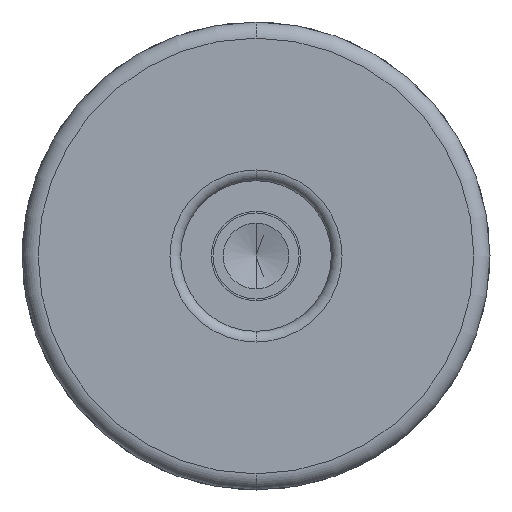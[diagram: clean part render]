
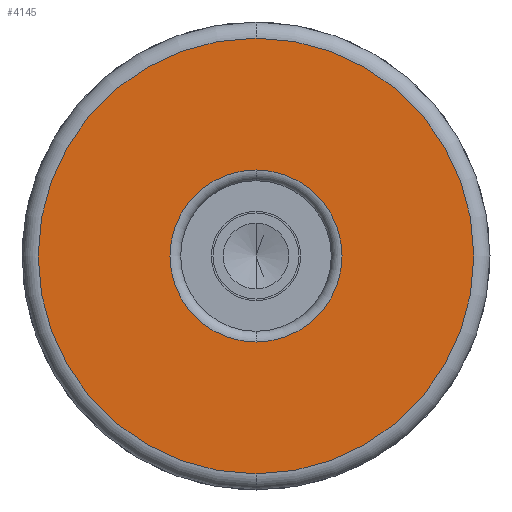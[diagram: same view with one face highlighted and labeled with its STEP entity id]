
A CAD part, front view. The second image highlights one B-rep face of the part: STEP entity #4145.
In plain terms, the highlighted planar face has unit normal (0, -1, 0).
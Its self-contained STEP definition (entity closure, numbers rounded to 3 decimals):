
#156 = EDGE_LOOP ( 'NONE', ( #4884, #4685 ) ) ;
#269 = CARTESIAN_POINT ( 'NONE',  ( 0., 0., 0. ) ) ;
#339 = AXIS2_PLACEMENT_3D ( 'NONE', #3984, #2891, #2018 ) ;
#465 = EDGE_CURVE ( 'NONE', #4158, #5172, #5816, .T. ) ;
#657 = FACE_BOUND ( 'NONE', #156, .T. ) ;
#678 = PLANE ( 'NONE',  #732 ) ;
#732 = AXIS2_PLACEMENT_3D ( 'NONE', #3659, #3357, #4864 ) ;
#772 = EDGE_CURVE ( 'NONE', #5172, #4158, #6204, .T. ) ;
#903 = EDGE_LOOP ( 'NONE', ( #2198, #3210 ) ) ;
#1357 = EDGE_CURVE ( 'NONE', #2450, #5265, #4343, .T. ) ;
#1986 = EDGE_CURVE ( 'NONE', #5265, #2450, #5834, .T. ) ;
#2018 = DIRECTION ( 'NONE',  ( 0., 0., -1. ) ) ;
#2156 = CARTESIAN_POINT ( 'NONE',  ( 0., 0., 20.25 ) ) ;
#2198 = ORIENTED_EDGE ( 'NONE', *, *, #1357, .T. ) ;
#2450 = VERTEX_POINT ( 'NONE', #5664 ) ;
#2460 = DIRECTION ( 'NONE',  ( 0., 0., -1. ) ) ;
#2777 = DIRECTION ( 'NONE',  ( 0., -1., 0. ) ) ;
#2891 = DIRECTION ( 'NONE',  ( 0., -1., 0. ) ) ;
#3210 = ORIENTED_EDGE ( 'NONE', *, *, #1986, .T. ) ;
#3357 = DIRECTION ( 'NONE',  ( 0., -1., 0. ) ) ;
#3532 = CARTESIAN_POINT ( 'NONE',  ( 0., 0., 0. ) ) ;
#3659 = CARTESIAN_POINT ( 'NONE',  ( -7., 0., 0. ) ) ;
#3874 = AXIS2_PLACEMENT_3D ( 'NONE', #269, #5820, #4782 ) ;
#3984 = CARTESIAN_POINT ( 'NONE',  ( 0., 0., 0. ) ) ;
#4145 = ADVANCED_FACE ( 'NONE', ( #5434, #657 ), #678, .T. ) ;
#4158 = VERTEX_POINT ( 'NONE', #4928 ) ;
#4343 = CIRCLE ( 'NONE', #6174, 20.25 ) ;
#4685 = ORIENTED_EDGE ( 'NONE', *, *, #465, .T. ) ;
#4782 = DIRECTION ( 'NONE',  ( 0., 0., -1. ) ) ;
#4864 = DIRECTION ( 'NONE',  ( 0., 0., -1. ) ) ;
#4884 = ORIENTED_EDGE ( 'NONE', *, *, #772, .T. ) ;
#4928 = CARTESIAN_POINT ( 'NONE',  ( 0., 0., 8. ) ) ;
#5172 = VERTEX_POINT ( 'NONE', #5544 ) ;
#5265 = VERTEX_POINT ( 'NONE', #2156 ) ;
#5434 = FACE_OUTER_BOUND ( 'NONE', #903, .T. ) ;
#5533 = DIRECTION ( 'NONE',  ( 0., 1., 0. ) ) ;
#5544 = CARTESIAN_POINT ( 'NONE',  ( 0., 0., -8. ) ) ;
#5664 = CARTESIAN_POINT ( 'NONE',  ( 0., 0., -20.25 ) ) ;
#5816 = CIRCLE ( 'NONE', #3874, 8. ) ;
#5820 = DIRECTION ( 'NONE',  ( 0., 1., 0. ) ) ;
#5834 = CIRCLE ( 'NONE', #339, 20.25 ) ;
#6102 = AXIS2_PLACEMENT_3D ( 'NONE', #3532, #5533, #2460 ) ;
#6174 = AXIS2_PLACEMENT_3D ( 'NONE', #6244, #2777, #6285 ) ;
#6204 = CIRCLE ( 'NONE', #6102, 8. ) ;
#6244 = CARTESIAN_POINT ( 'NONE',  ( 0., 0., 0. ) ) ;
#6285 = DIRECTION ( 'NONE',  ( 0., 0., -1. ) ) ;
